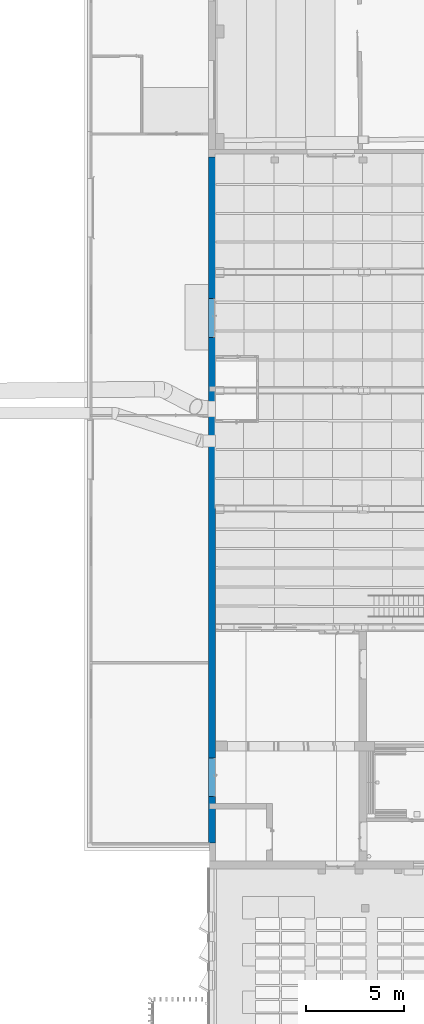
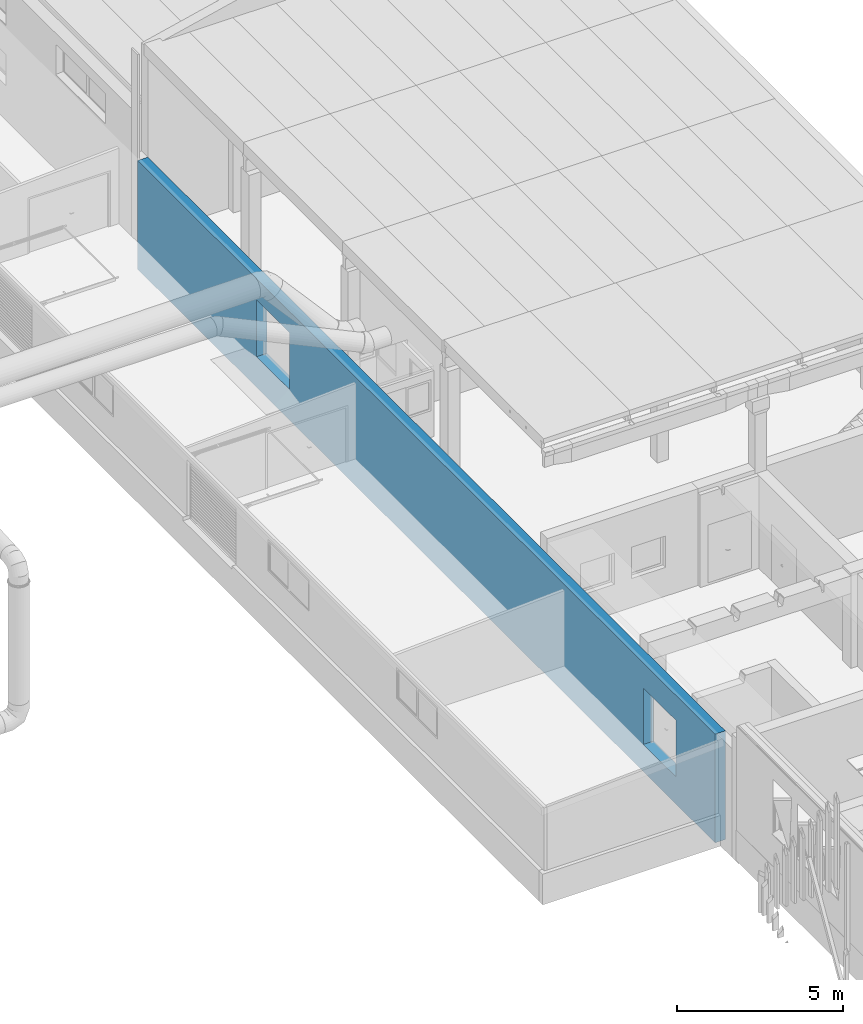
# One storey, part 119 of 301: 1 wall, 2 openings.
"""IFC2X3 building model written with IfcOpenShell, lengths in millimetres."""

from ifc_helpers import new_model, entity, si_unit, converted_unit, derived_unit, money_unit, direction, frame, origin_with_axes, place, context, subcontext, project, spatial, faceted_brep, material, type_object, element, save


model = new_model("IFC2X3")

# Units and contexts
model_context = context("Model", 3, precision=0.01, world=origin_with_axes(), true_north=direction((0.0, 1.0)))
body_context = subcontext(model_context, "Body", "Model", "MODEL_VIEW")
ifc_project = project(units=[si_unit("LENGTHUNIT", "METRE", prefix="MILLI"), si_unit("AREAUNIT", "SQUARE_METRE"), si_unit("VOLUMEUNIT", "CUBIC_METRE"), converted_unit("PLANEANGLEUNIT", "DEGREE", entity("IfcPlaneAngleMeasure", 0.0174532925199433), si_unit("PLANEANGLEUNIT", "RADIAN"), dimensions=[0, 0, 0, 0, 0, 0, 0]), money_unit("EUR"), converted_unit("TIMEUNIT", "Year", entity("IfcTimeMeasure", 31557600.0), si_unit("TIMEUNIT", "SECOND"), dimensions=[0, 0, 1, 0, 0, 0, 0]), si_unit("MASSUNIT", "GRAM", prefix="KILO"), si_unit("THERMODYNAMICTEMPERATUREUNIT", "DEGREE_CELSIUS"), si_unit("LUMINOUSINTENSITYUNIT", "LUMEN"), si_unit("ENERGYUNIT", "JOULE", prefix="MEGA"), derived_unit("THERMALCONDUCTANCEUNIT", [(si_unit("POWERUNIT", "WATT"), 1), (si_unit("LENGTHUNIT", "METRE"), -1), (si_unit("THERMODYNAMICTEMPERATUREUNIT", "KELVIN"), -1)]), derived_unit("SPECIFICHEATCAPACITYUNIT", [(si_unit("ENERGYUNIT", "JOULE"), 1), (si_unit("MASSUNIT", "GRAM", prefix="KILO"), -1), (si_unit("THERMODYNAMICTEMPERATUREUNIT", "KELVIN"), -1)]), derived_unit("MASSDENSITYUNIT", [(si_unit("MASSUNIT", "GRAM", prefix="KILO"), 1), (si_unit("VOLUMEUNIT", "CUBIC_METRE"), -1)])], contexts=[model_context])

# Site, building, storey
site_placement = place(None, frame((0.0, 0.0, 8650.0), z_axis=(0.0, 0.0, 1.0), x_axis=(1.0, 0.0, 0.0)))
site = spatial("IfcSite", under=ifc_project, at=site_placement, Name="43301:001:0844", CompositionType="ELEMENT")
building_placement = place(site_placement, origin_with_axes())
building = spatial("IfcBuilding", under=site, at=building_placement, Name="Kuressaare Ametikooli tuulikute mehaanikute õppekorpus", CompositionType="ELEMENT")
storey_placement = place(building_placement, origin_with_axes())
storey = spatial("IfcBuildingStorey", under=building, at=storey_placement, Name="1.korrus", CompositionType="ELEMENT", Elevation=0.0)

# Wall, openings
ifc_material = material(Name="GENEERILINE - KONSTRUKTRIOON")
wall_type = type_object("IfcWallType", Name="GENEERILINE - KONSTRUKTRIOON 360", PredefinedType="NOTDEFINED")
wall_placement = place(storey_placement, frame((87898.75644683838, 62318.2822931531, -1000.0), z_axis=(0.0, 0.0, 1.0), x_axis=(0.0, -1.0, 0.0)))
wall = element("IfcWall", 1, at=wall_placement, inside=storey, type_object=wall_type, material=ifc_material, Name="SS-XX", context=body_context, shape_type="Brep", body=[
    faceted_brep([(380.0000000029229, 0.0, 0.0), (35219.37520391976, 0.0, 0.0), (35219.37520391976, 0.0, 4000.0), (380.0000000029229, 0.0, 4000.0), (30896.45413763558, 0.0, 3080.0), (32876.45413763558, 0.0, 3080.0), (32876.45413763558, 0.0, 1000.0), (30896.45413763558, 0.0, 1000.0), (9538.94909944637, 0.0, 1130.0), (7558.949099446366, 0.0, 1130.0), (7558.949099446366, 0.0, 3220.0), (9538.94909944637, 0.0, 3220.0), (379.9985867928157, 359.9999999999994, 0.0), (35219.37520391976, 359.9999999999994, 0.0), (35219.37520391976, 359.9999999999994, 4000.0), (30556.41771625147, 359.9999999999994, 4000.0), (30556.41725259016, 359.5185121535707, 4000.0), (30056.41748442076, 360.0000000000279, 4000.0), (379.9985867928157, 359.9999999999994, 4000.0), (30896.45413763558, 360.0000000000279, 3080.0), (32876.45413763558, 360.0000000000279, 3080.0), (32876.45413763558, 360.0000000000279, 1000.0), (30896.45413763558, 360.0000000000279, 1000.0), (9538.94909944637, 359.9999999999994, 1130.0), (7558.949099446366, 359.9999999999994, 1130.0), (7558.949099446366, 359.9999999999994, 3220.0), (9538.94909944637, 359.9999999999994, 3220.0), (30056.41748442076, 360.0000000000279, 3759.999999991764), (30556.41771625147, 359.9999999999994, 3759.999999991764), (30556.41725259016, 359.5185121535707, 3759.999999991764)], [[[0, 1, 2, 3], [4, 5, 6, 7], [8, 9, 10, 11]], [[12, 13, 1, 0]], [[1, 13, 14, 2]], [[3, 2, 14, 15, 16, 17, 18]], [[18, 12, 0, 3]], [[5, 4, 19, 20]], [[6, 5, 20, 21]], [[7, 6, 21, 22]], [[4, 7, 22, 19]], [[9, 8, 23, 24]], [[25, 10, 9, 24]], [[26, 11, 10, 25]], [[8, 11, 26, 23]], [[17, 27, 28, 15, 14, 13, 12, 18], [19, 22, 21, 20], [26, 25, 24, 23]], [[28, 29, 16, 15]], [[29, 27, 17, 16]], [[29, 28, 27]]]),
])
opening_1_placement = place(wall_placement, frame((31886.45413763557, 0.0, 1000.0), z_axis=(0.0, 0.0, 1.0), x_axis=(1.0, 0.0, 0.0)))
element("IfcOpeningElement", 2, at=opening_1_placement, cuts=wall, context=body_context, shape_type="Brep", body=[
    faceted_brep([(-989.9999999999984, -1.000000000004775, 2080.0), (-989.9999999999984, -1.000000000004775, 0.0), (989.9999999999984, -1.000000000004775, 0.0), (989.9999999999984, -1.000000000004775, 2080.0), (-989.9999999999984, 361.0000000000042, 2080.0), (-989.9999999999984, 361.0000000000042, 0.0), (989.9999999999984, 361.0000000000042, 0.0), (989.9999999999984, 361.0000000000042, 2080.0)], [[[0, 1, 2, 3]], [[4, 5, 1, 0]], [[5, 6, 2, 1]], [[6, 7, 3, 2]], [[7, 4, 0, 3]], [[6, 5, 4, 7]]]),
])
opening_2_placement = place(wall_placement, frame((8548.949099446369, 0.0, 1130.0), z_axis=(0.0, 0.0, 1.0), x_axis=(1.0, 0.0, 0.0)))
element("IfcOpeningElement", 3, at=opening_2_placement, cuts=wall, Name="SU-XX", context=body_context, shape_type="Brep", body=[
    faceted_brep([(-990.000000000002, 334.9999999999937, 0.0), (-990.000000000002, 334.9999999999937, 2090.0), (-990.000000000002, 361.0000000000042, 2090.0), (-990.000000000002, 361.0000000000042, 0.0), (-990.000000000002, -1.000000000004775, 0.0), (-990.000000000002, -1.000000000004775, 2090.0), (990.000000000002, 334.9999999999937, 2090.0), (990.000000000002, 361.0000000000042, 2090.0), (990.000000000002, -1.000000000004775, 2090.0), (990.000000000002, 361.0000000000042, 0.0), (990.000000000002, 334.9999999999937, 0.0), (990.000000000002, -1.000000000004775, 0.0)], [[[0, 1, 2, 3]], [[1, 0, 4, 5]], [[6, 7, 2, 1, 5, 8]], [[7, 9, 3, 2]], [[0, 3, 9, 10, 11, 4]], [[5, 4, 11, 8]], [[6, 10, 9, 7]], [[10, 6, 8, 11]]]),
])

save(model, "model.ifc")
